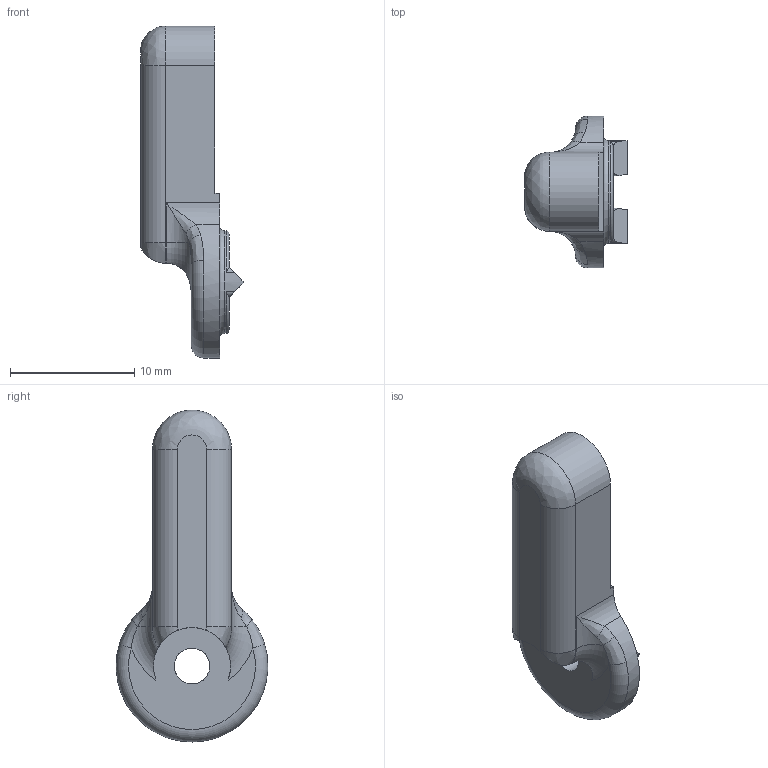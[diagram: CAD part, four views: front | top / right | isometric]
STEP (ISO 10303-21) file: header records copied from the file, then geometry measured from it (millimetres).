
FILE_DESCRIPTION(/* description */ (''),/* implementation_level */ '2;1');
FILE_NAME(/* name */ 'D:\~~GatCad\Ivan''s Printable Fire Control Group (AR15, FGC-9, etc)\Release V1.0\STEP\Lever V1.0.stp',/* time_stamp */ '2021-01-30T13:51:38-06:00',/* author */ ('johne'),/* organization */ (''),/* preprocessor_version */ 'ST-DEVELOPER v18',/* originating_system */ 'Autodesk Inventor 2020',/* authorisation */ '');
FILE_SCHEMA (('AUTOMOTIVE_DESIGN { 1 0 10303 214 3 1 1 }'));
Length unit declared in the file: millimetre
Products named in the file (1): Lever
Bounding box: 8.27 x 12.19 x 26.67 mm (x, y, z)
Volume: 809.5 mm3; surface area: 800.5 mm2
Topology: 1 solids, 1 shells, 60 faces, 161 edges, 102 vertices
Faces by surface type: cylinder 25, plane 20, bspline 9, torus 6
Full cylindrical faces by diameter (mm): 2.87 x1, 8.255 x1
Entity records: 2186 total; most frequent: CARTESIAN_POINT 658, ORIENTED_EDGE 318, DIRECTION 308, EDGE_CURVE 159, AXIS2_PLACEMENT_3D 123, VERTEX_POINT 102, EDGE_LOOP 63, LINE 62
